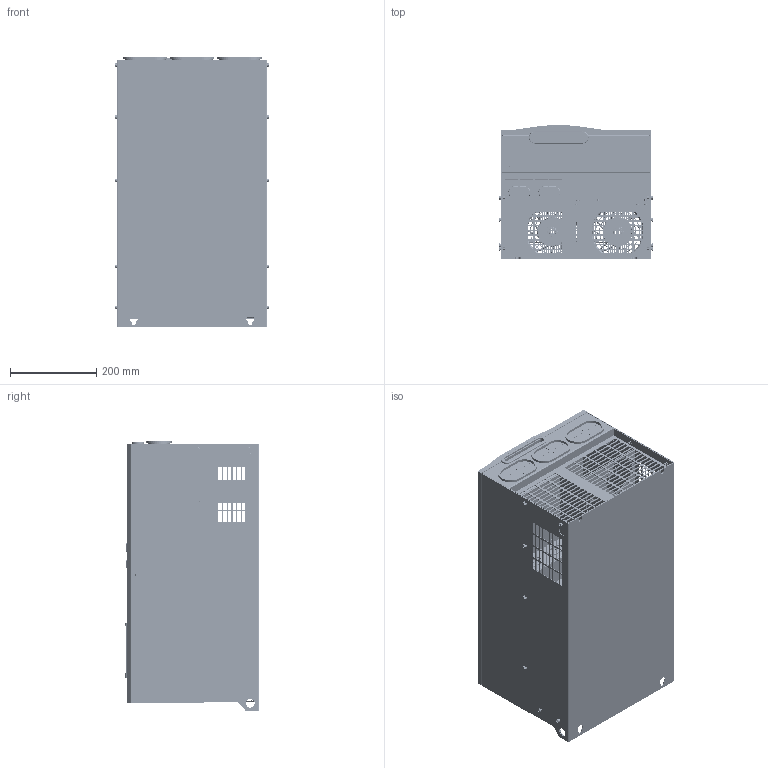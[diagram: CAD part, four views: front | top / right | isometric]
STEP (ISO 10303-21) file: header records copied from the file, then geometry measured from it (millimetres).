
FILE_DESCRIPTION((''),'2;1');
FILE_NAME('T8_ASM','2024-03-28T14:53:42',('dyliuk'),(''),'CREO PARAMETRIC BY PTC INC, 2020044','CREO PARAMETRIC BY PTC INC, 2020044','');
FILE_SCHEMA(('CONFIG_CONTROL_DESIGN','SHAPE_APPEARANCE_LAYERS_GROUPS'));
Products named in the file (105): MIDDLE-TB_120_1; RESIS-TUOBAN-NEW_2_1; S-M5-2-A_1_1; RESI-TBAN_ASM_5_ASM_1_ASM; SOO-M4-12-ZI-A_1_1; MIDDL-TB-SHELL_ASM_95_ASM_1_ASM; CAP-RUBBER_1_1; BOX-BASE1_77_1; BOX-BASE-1-ASM_ASM_63_ASM_1_ASM; ZHIJIA-LEFT_11_1; S-M4-2-A_1_1; POWER-ZHIJIA-LEFT_ASM_10_ASM_1_ASM; ZHIJIA-RIGHT-POWER_9_1; POWER-ZHIJIA-RIGHT_ASM_9_ASM_1_ASM; HT50X27X10_1_1; REACTOR-SHELLA_11_1; SOO-M4-20-ZI-A_1_1; REACTOR-SHELL-B_ASM_2_ASM_1_ASM; TERM-ZHIJIARIGHT1_5_1; TERM-ZHIJIA-RIGHT1_ASM_28_ASM_1_ASM; TERM-ZHIJIARIGHT2_4_1; TERM-ZHIJIA-RIGHT2_ASM_29_ASM_1_ASM; DOWN-PLATE-A1_34_1; HXQ-95X50X3_3_1; RUBBER-QQQ_3_1; DOWN-PLATE-A_ASM_14_ASM_1_ASM; CPU-ZHIJIA-1_6_1; CPU-ZHIJIA-GENERAL_ASM_26_ASM_1_ASM; GBT-9074-13-M5X12_1_1; TERM-ZHIJIA-LEFT_7_1; TERM-ZHIJIA-LEFT-A_ASM_29_ASM_1_ASM; BOX-METAL_ASM_137_ASM_1_ASM; NVF7-RADIATOR_22_1; IGBT-RADIATOR-A_ASM_78_ASM_1_ASM; FAN-SHELL_10_1; FAN-SHEET-ASM_ASM_10_ASM_1_ASM; 12038A_1_1; MANIFOLD_SOLID_BREP_118_3_1_1; MANIFOLD_SOLID_BREP_224_3_1_1; MANIFOLD_SOLID_BREP_330_3_1_1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
Assembly tree (188 placements, depth 7):
  T8_ASM
    0-1-NVF7-75T-132P_ASM_40_ASM_1_ASM
      NVF7-90T-BASE_ASM_133_ASM_1_ASM
        BOX-METAL_ASM_137_ASM_1_ASM
          MIDDL-TB-SHELL_ASM_95_ASM_1_ASM
            MIDDLE-TB_120_1
            RESI-TBAN_ASM_5_ASM_1_ASM
              RESIS-TUOBAN-NEW_2_1
              S-M5-2-A_1_1  x2
            SOO-M4-12-ZI-A_1_1  x4
            S-M5-2-A_1_1  x4
          CAP-RUBBER_1_1
          BOX-BASE-1-ASM_ASM_63_ASM_1_ASM
            BOX-BASE1_77_1
            S-M5-2-A_1_1  x6
          POWER-ZHIJIA-LEFT_ASM_10_ASM_1_ASM
            ZHIJIA-LEFT_11_1
            S-M4-2-A_1_1  x4
          POWER-ZHIJIA-RIGHT_ASM_9_ASM_1_ASM  x2
            ZHIJIA-RIGHT-POWER_9_1
            S-M4-2-A_1_1
          HT50X27X10_1_1  x2
          REACTOR-SHELL-B_ASM_2_ASM_1_ASM
            REACTOR-SHELLA_11_1
            SOO-M4-20-ZI-A_1_1
          TERM-ZHIJIA-RIGHT1_ASM_28_ASM_1_ASM
            TERM-ZHIJIARIGHT1_5_1
            S-M4-2-A_1_1
          TERM-ZHIJIA-RIGHT2_ASM_29_ASM_1_ASM
            TERM-ZHIJIARIGHT2_4_1
            S-M4-2-A_1_1
          DOWN-PLATE-A_ASM_14_ASM_1_ASM
            DOWN-PLATE-A1_34_1
            HXQ-95X50X3_3_1  x3
            RUBBER-QQQ_3_1
            S-M4-2-A_1_1  x2
          CPU-ZHIJIA-GENERAL_ASM_26_ASM_1_ASM  x8
            CPU-ZHIJIA-1_6_1
            S-M4-2-A_1_1
          GBT-9074-13-M5X12_1_1  x14
          TERM-ZHIJIA-LEFT-A_ASM_29_ASM_1_ASM
            TERM-ZHIJIA-LEFT_7_1
            S-M4-2-A_1_1
        IGBT-RADIATOR-A_ASM_78_ASM_1_ASM
          NVF7-RADIATOR_22_1
        DC-FAN-ASM_ASM_12_ASM_1_ASM
          FAN-SHEET-ASM_ASM_10_ASM_1_ASM
            FAN-SHELL_10_1
            S-M4-2-A_1_1  x8
            S-M5-2-A_1_1  x4
          12038A_1_1  x2
          12038-ZHAO-A_ASM_1_ASM_1_ASM  x2
            120-ZAO_1_ASM_2_ASM_2_ASM_1_ASM
              MANIFOLD_SOLID_BREP_118_3_1_1
              MANIFOLD_SOLID_BREP_224_3_1_1
              MANIFOLD_SOLID_BREP_330_3_1_1
              MANIFOLD_SOLID_BREP_436_3_1_1
              MANIFOLD_SOLID_BREP_542_3_1_1
              MANIFOLD_SOLID_BREP_648_3_1_1
              MANIFOLD_SOLID_BREP_754_3_1_1
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Bounding box: 358 x 310.27 x 626.15 mm (x, y, z)
Volume: 6541343 mm3; surface area: 6951412.2 mm2
Topology: 169 solids, 215 shells, 16774 faces, 46367 edges, 30654 vertices
Faces by surface type: plane 12513, cylinder 2949, torus 544, cone 332, bspline 330, extrusion 84, sphere 18, revolution 4
Entity records: 317001 total; most frequent: CARTESIAN_POINT 70115, ORIENTED_EDGE 41726, DIRECTION 39859, EDGE_CURVE 20995, VECTOR 14953, LINE 14876, VERTEX_POINT 13879, AXIS2_PLACEMENT_3D 12451
